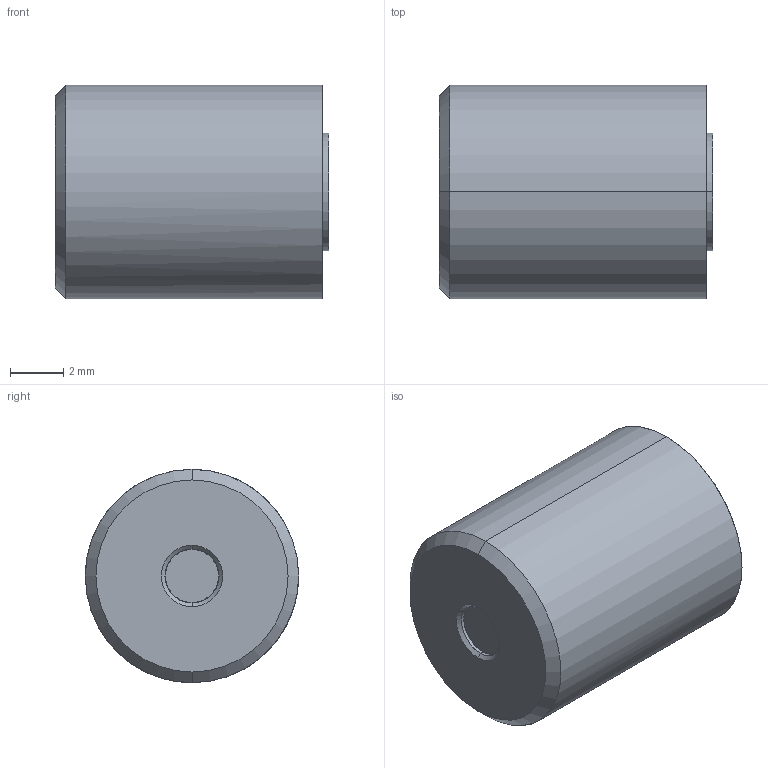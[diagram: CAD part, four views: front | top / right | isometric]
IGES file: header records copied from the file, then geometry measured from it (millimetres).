
Start section: START RECORD GO HERE.
Global section: file name: D374-8-A-DM-FA.igs; native system: DASSAULT SYSTEMES CATIA V5 R20 - www.3ds.com; preprocessor: CATIA Version 5 Release 20 ; author: Utente; organization: NB04-ASUS; date: 20210330.123610; units: millimetre
Bounding box: 10.25 x 8 x 8 mm (x, y, z)
Surface area: 597.2 mm2 (no closed solid volume)
Topology: 0 solids, 0 shells, 222 faces, 1226 edges, 1224 vertices
Faces by surface type: plane 137, revolution 85
